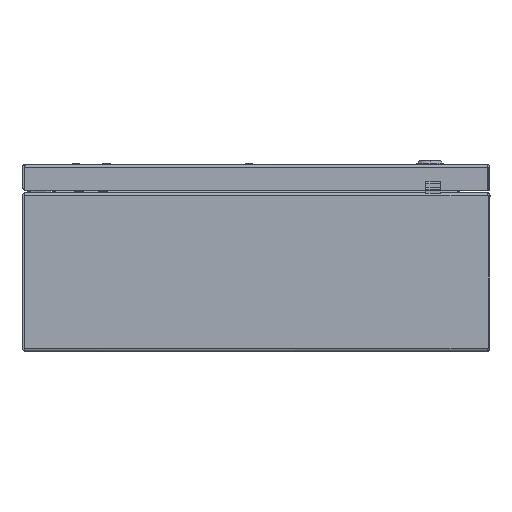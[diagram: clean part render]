
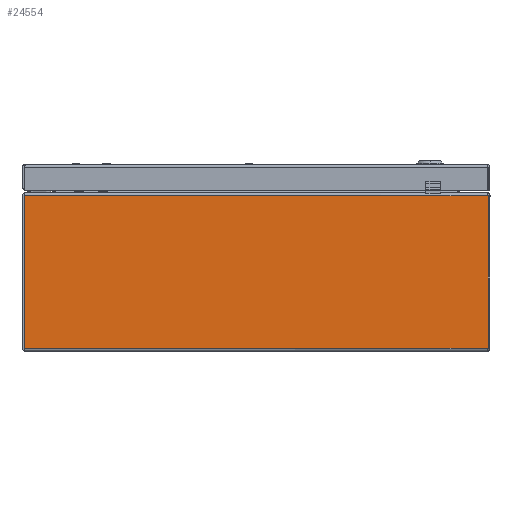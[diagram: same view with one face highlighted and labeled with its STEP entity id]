
A CAD part, front view. The second image highlights one B-rep face of the part: STEP entity #24554.
In plain terms, the highlighted planar face has unit normal (0, -1, 0).
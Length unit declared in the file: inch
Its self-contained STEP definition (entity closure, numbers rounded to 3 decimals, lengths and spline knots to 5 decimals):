
#270 = CARTESIAN_POINT ( 'NONE',  ( 108.295, -9.845, 6.57 ) ) ;
#278 = DIRECTION ( 'NONE',  ( -1., 0., 0. ) ) ;
#564 = CARTESIAN_POINT ( 'NONE',  ( 9.76253, -9.845, 6.57 ) ) ;
#567 = DIRECTION ( 'NONE',  ( 0., 0., -1. ) ) ;
#628 = CARTESIAN_POINT ( 'NONE',  ( -9.76253, -9.845, 6.57 ) ) ;
#636 = CARTESIAN_POINT ( 'NONE',  ( 108.295, -9.845, 0.13 ) ) ;
#637 = DIRECTION ( 'NONE',  ( 0., 0., 1. ) ) ;
#649 = DIRECTION ( 'NONE',  ( -1., 0., 0. ) ) ;
#743 = LINE ( 'NONE', #564, #748 ) ;
#748 = VECTOR ( 'NONE', #567, 39.37008 ) ;
#786 = LINE ( 'NONE', #628, #790 ) ;
#790 = VECTOR ( 'NONE', #637, 39.37008 ) ;
#794 = VECTOR ( 'NONE', #649, 39.37008 ) ;
#799 = LINE ( 'NONE', #636, #794 ) ;
#20577 = CARTESIAN_POINT ( 'NONE',  ( 9.76253, -9.845, 6.57 ) ) ;
#20582 = CARTESIAN_POINT ( 'NONE',  ( -9.76253, -9.845, 6.57 ) ) ;
#20650 = CARTESIAN_POINT ( 'NONE',  ( -9.76253, -9.845, 0.13 ) ) ;
#20651 = CARTESIAN_POINT ( 'NONE',  ( 9.76253, -9.845, 0.13 ) ) ;
#24554 = ADVANCED_FACE ( 'NONE', ( #51326 ), #52177, .F. ) ;
#29381 = EDGE_CURVE ( 'NONE', #42157, #42162, #57552, .T. ) ;
#29492 = EDGE_CURVE ( 'NONE', #42157, #42231, #743, .T. ) ;
#29520 = EDGE_CURVE ( 'NONE', #42230, #42162, #786, .T. ) ;
#29525 = EDGE_CURVE ( 'NONE', #42231, #42230, #799, .T. ) ;
#42157 = VERTEX_POINT ( 'NONE', #20577 ) ;
#42162 = VERTEX_POINT ( 'NONE', #20582 ) ;
#42230 = VERTEX_POINT ( 'NONE', #20650 ) ;
#42231 = VERTEX_POINT ( 'NONE', #20651 ) ;
#42761 = EDGE_LOOP ( 'NONE', ( #56486, #56480, #56507, #56498 ) ) ;
#49738 = AXIS2_PLACEMENT_3D ( 'NONE', #52181, #52187, #52188 ) ;
#51326 = FACE_OUTER_BOUND ( 'NONE', #42761, .T. ) ;
#52177 = PLANE ( 'NONE',  #49738 ) ;
#52181 = CARTESIAN_POINT ( 'NONE',  ( 108.295, -9.845, 6.57 ) ) ;
#52187 = DIRECTION ( 'NONE',  ( 0., 1., 0. ) ) ;
#52188 = DIRECTION ( 'NONE',  ( 0., 0., -1. ) ) ;
#56480 = ORIENTED_EDGE ( 'NONE', *, *, #29525, .F. ) ;
#56486 = ORIENTED_EDGE ( 'NONE', *, *, #29520, .F. ) ;
#56498 = ORIENTED_EDGE ( 'NONE', *, *, #29381, .T. ) ;
#56507 = ORIENTED_EDGE ( 'NONE', *, *, #29492, .F. ) ;
#57552 = LINE ( 'NONE', #270, #57554 ) ;
#57554 = VECTOR ( 'NONE', #278, 39.37008 ) ;
